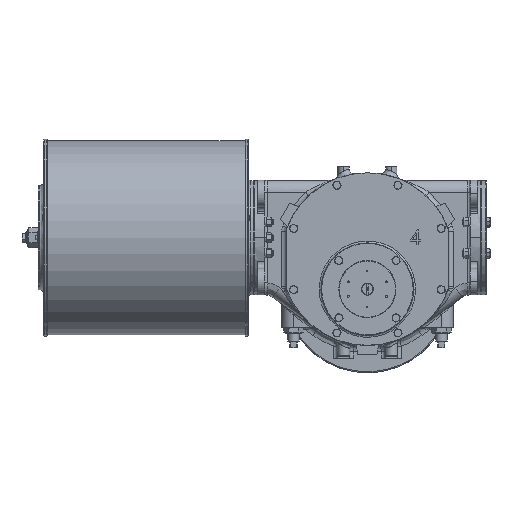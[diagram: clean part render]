
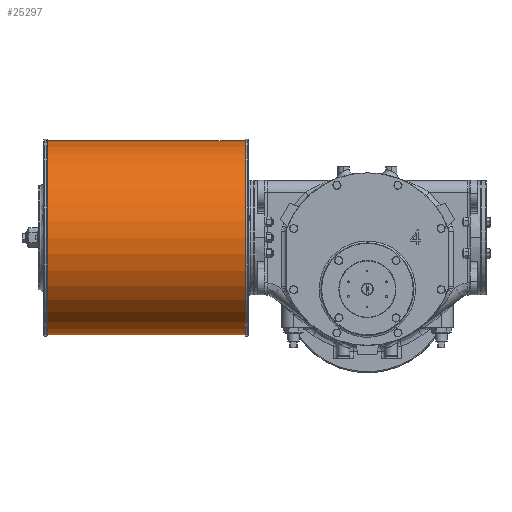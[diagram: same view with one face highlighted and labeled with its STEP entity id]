
A CAD part, top view. The second image highlights one B-rep face of the part: STEP entity #25297.
In plain terms, the highlighted cylindrical face has radius 203.2 mm (diameter 406.4 mm), a partial arc.
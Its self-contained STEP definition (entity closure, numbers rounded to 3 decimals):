
#2746 = VECTOR ( 'NONE', #37689, 1000. ) ;
#12967 = EDGE_CURVE ( 'NONE', #15398, #36577, #25794, .T. ) ;
#13369 = EDGE_CURVE ( 'NONE', #16666, #51905, #17743, .T. ) ;
#15392 = ORIENTED_EDGE ( 'NONE', *, *, #31483, .T. ) ;
#15398 = VERTEX_POINT ( 'NONE', #48650 ) ;
#16442 = ORIENTED_EDGE ( 'NONE', *, *, #19013, .T. ) ;
#16666 = VERTEX_POINT ( 'NONE', #34067 ) ;
#17743 = LINE ( 'NONE', #47827, #2746 ) ;
#17836 = DIRECTION ( 'NONE',  ( 0., -1., 0. ) ) ;
#18426 = AXIS2_PLACEMENT_3D ( 'NONE', #40188, #54571, #30053 ) ;
#19013 = EDGE_CURVE ( 'NONE', #51905, #36577, #24306, .T. ) ;
#20002 = CARTESIAN_POINT ( 'NONE',  ( -671.5, 311.2, 82.5 ) ) ;
#21095 = FACE_OUTER_BOUND ( 'NONE', #24282, .T. ) ;
#21737 = CYLINDRICAL_SURFACE ( 'NONE', #24074, 203.2 ) ;
#24074 = AXIS2_PLACEMENT_3D ( 'NONE', #46251, #41667, #41030 ) ;
#24282 = EDGE_LOOP ( 'NONE', ( #15392, #35524, #16442, #57734 ) ) ;
#24306 = CIRCLE ( 'NONE', #34756, 203.2 ) ;
#25297 = ADVANCED_FACE ( 'NONE', ( #21095 ), #21737, .T. ) ;
#25794 = LINE ( 'NONE', #49973, #59073 ) ;
#30053 = DIRECTION ( 'NONE',  ( 0., -1., 0. ) ) ;
#31483 = EDGE_CURVE ( 'NONE', #15398, #16666, #46628, .T. ) ;
#34067 = CARTESIAN_POINT ( 'NONE',  ( -256.5, 311.2, 82.5 ) ) ;
#34756 = AXIS2_PLACEMENT_3D ( 'NONE', #62631, #47263, #17836 ) ;
#35524 = ORIENTED_EDGE ( 'NONE', *, *, #13369, .T. ) ;
#35568 = DIRECTION ( 'NONE',  ( -1., 0., 0. ) ) ;
#36577 = VERTEX_POINT ( 'NONE', #40416 ) ;
#37689 = DIRECTION ( 'NONE',  ( -1., 0., 0. ) ) ;
#40188 = CARTESIAN_POINT ( 'NONE',  ( -256.5, 108., 82.5 ) ) ;
#40416 = CARTESIAN_POINT ( 'NONE',  ( -671.5, -95.2, 82.5 ) ) ;
#41030 = DIRECTION ( 'NONE',  ( 0., -1., 0. ) ) ;
#41667 = DIRECTION ( 'NONE',  ( -1., 0., 0. ) ) ;
#46251 = CARTESIAN_POINT ( 'NONE',  ( -256.5, 108., 82.5 ) ) ;
#46628 = CIRCLE ( 'NONE', #18426, 203.2 ) ;
#47263 = DIRECTION ( 'NONE',  ( 1., 0., 0. ) ) ;
#47827 = CARTESIAN_POINT ( 'NONE',  ( -256.5, 311.2, 82.5 ) ) ;
#48650 = CARTESIAN_POINT ( 'NONE',  ( -256.5, -95.2, 82.5 ) ) ;
#49973 = CARTESIAN_POINT ( 'NONE',  ( -256.5, -95.2, 82.5 ) ) ;
#51905 = VERTEX_POINT ( 'NONE', #20002 ) ;
#54571 = DIRECTION ( 'NONE',  ( -1., 0., 0. ) ) ;
#57734 = ORIENTED_EDGE ( 'NONE', *, *, #12967, .F. ) ;
#59073 = VECTOR ( 'NONE', #35568, 1000. ) ;
#62631 = CARTESIAN_POINT ( 'NONE',  ( -671.5, 108., 82.5 ) ) ;
